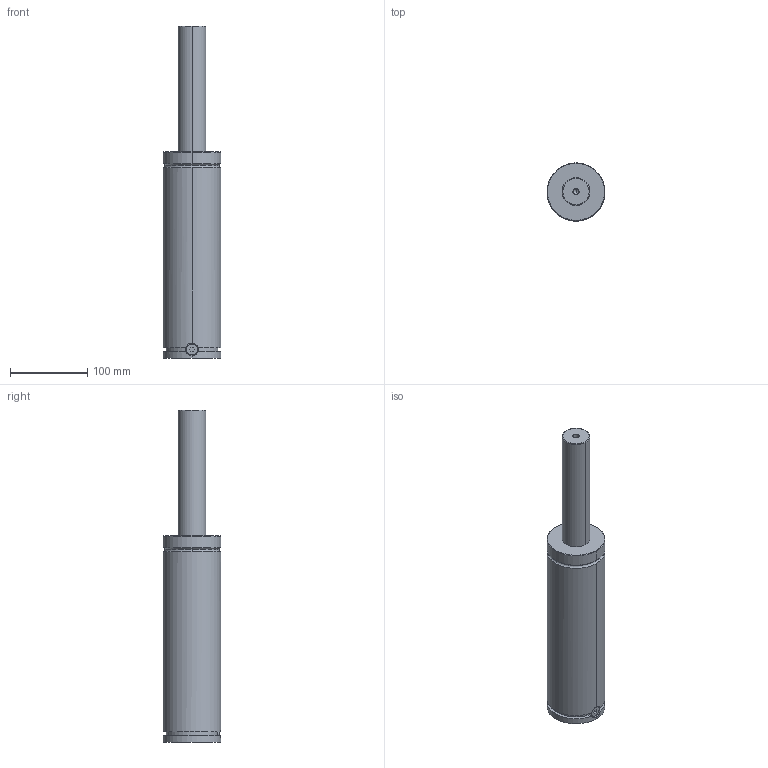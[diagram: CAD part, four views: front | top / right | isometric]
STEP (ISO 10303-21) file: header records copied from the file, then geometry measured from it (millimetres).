
FILE_DESCRIPTION( ( '' ), '1' );
FILE_NAME( 'W:/LIBRERIA TECAPRES®/DIBUJOS STRACK 2012/TPS/TPS 1500/TPS 1500x160.stp', '2012-05-15T13:13:31', ( '' ), ( '' ), ' ', ' ', ' ' );
FILE_SCHEMA( ( 'automotive_design' ) );
Length unit declared in the file: millimetre
Products named in the file (3): 1; 2; 3
Bounding box: 75 x 75 x 430 mm (x, y, z)
Volume: 1172154.6 mm3; surface area: 115245.3 mm2
Topology: 3 solids, 3 shells, 68 faces, 152 edges, 98 vertices
Faces by surface type: cylinder 32, plane 24, torus 6, cone 6
Entity records: 3901 total; most frequent: CARTESIAN_POINT 473, DIRECTION 367, STYLED_ITEM 319, PRESENTATION_STYLE_ASSIGNMENT 319, COLOUR_RGB 319, ORIENTED_EDGE 300, AXIS2_PLACEMENT_3D 154, EDGE_CURVE 150
